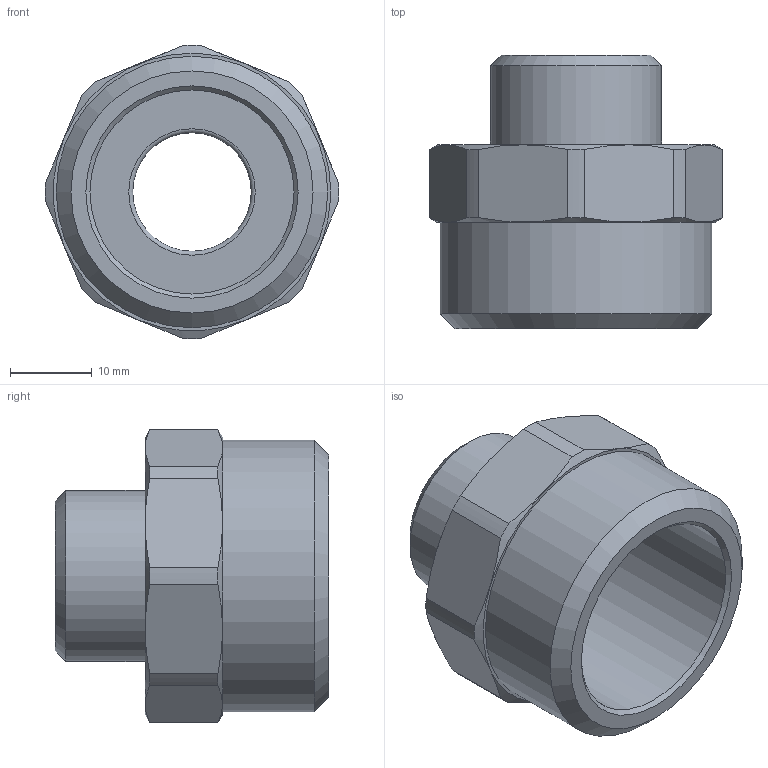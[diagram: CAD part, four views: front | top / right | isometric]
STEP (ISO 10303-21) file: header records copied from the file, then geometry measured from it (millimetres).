
FILE_DESCRIPTION(('STEP AP203'), '1');
FILE_NAME('ÂÐ.753157.002 - VTr.580.N.0604 Íèïïåëü G1xG1-2', '2024-07-03T10:14:17', ('Boss'), (''), 'C3D Converter', 'C3D Toolkit', '');
FILE_SCHEMA(('CONFIG_CONTROL_DESIGN'));
Length unit declared in the file: millimetre
Products named in the file (1): ВР.753157.002
Bounding box: 35.99 x 33.5 x 35.99 mm (x, y, z)
Volume: 11846.5 mm3; surface area: 6650 mm2
Topology: 1 solids, 1 shells, 43 faces, 96 edges, 58 vertices
Faces by surface type: cone 17, plane 13, cylinder 12, torus 1
Full cylindrical faces by diameter (mm): 14.5 x1, 20.955 x1, 25 x1, 33.249 x1
Entity records: 1606 total; most frequent: CARTESIAN_POINT 675, DIRECTION 188, ORIENTED_EDGE 174, EDGE_CURVE 87, AXIS2_PLACEMENT_3D 86, VERTEX_POINT 58, EDGE_LOOP 57, ADVANCED_FACE 43
